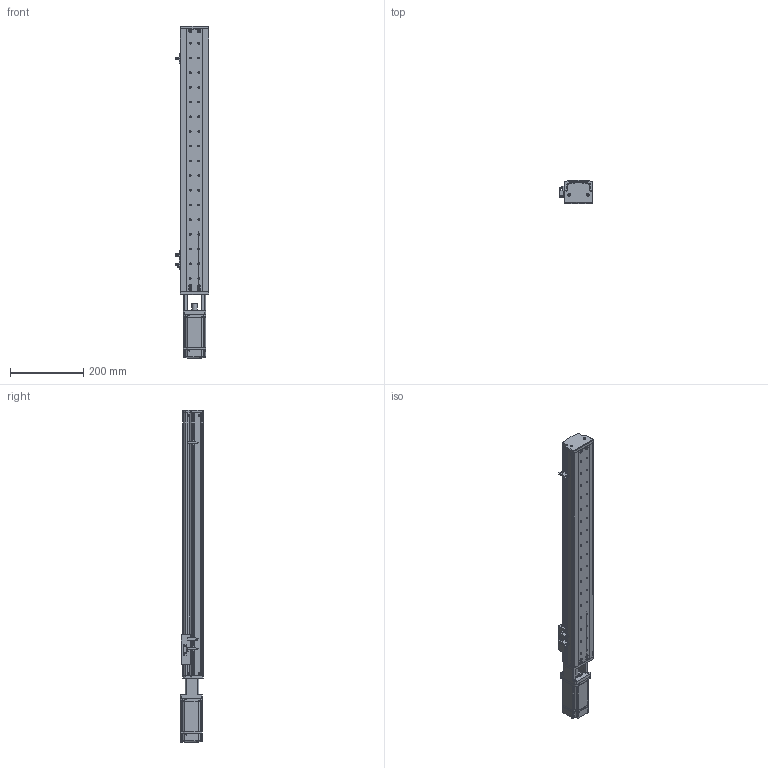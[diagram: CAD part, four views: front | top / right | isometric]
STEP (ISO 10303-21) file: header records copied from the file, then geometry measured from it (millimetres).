
FILE_DESCRIPTION (( 'STEP AP214' ), '1' );
FILE_NAME ('KSD75S-S560-MT-CM.STEP', '2019-10-18T07:33:41', ( '微软用户' ), ( '微软中国' ), 'SwSTEP 2.0', 'SolidWorks 2014', '' );
FILE_SCHEMA (( 'AUTOMOTIVE_DESIGN' ));
Length unit declared in the file: millimetre
Products named in the file (12): MHMD042G1CA_2_03; 覜茼え100遵圉猾敕; U倰嫖萇EEㄜSX672; 綴傷啣 ; 100遵鎮湛假蚾啣1 ; ヶ傷啣; 75裔啣-560俴最; 75遵耀郪耜啣-560俴最; 75遵賑雄釱; MGW15H賑寢560俴最 ; 560俴最; KSD75S-S560-MT-CM
Assembly tree (14 placements, depth 3):
  KSD75S-S560-MT-CM
    MGW15H賑寢560俴最 
      560俴最
    75遵賑雄釱
    75遵耀郪耜啣-560俴最  x2
    75裔啣-560俴最
    ヶ傷啣
    100遵鎮湛假蚾啣1 
    綴傷啣 
    U倰嫖萇EEㄜSX672  x3
    覜茼え100遵圉猾敕
    MHMD042G1CA_2_03
Bounding box: 91.7 x 63 x 903.5 mm (x, y, z)
Volume: 915741.6 mm3; surface area: 574207.2 mm2
Topology: 12 solids, 13 shells, 1446 faces, 4077 edges, 2659 vertices
Faces by surface type: cylinder 692, plane 607, cone 129, bspline 18
Entity records: 46436 total; most frequent: CARTESIAN_POINT 8797, DIRECTION 6913, ORIENTED_EDGE 6434, EDGE_CURVE 3288, AXIS2_PLACEMENT_3D 2554, VERTEX_POINT 2177, LINE 1805, VECTOR 1805
